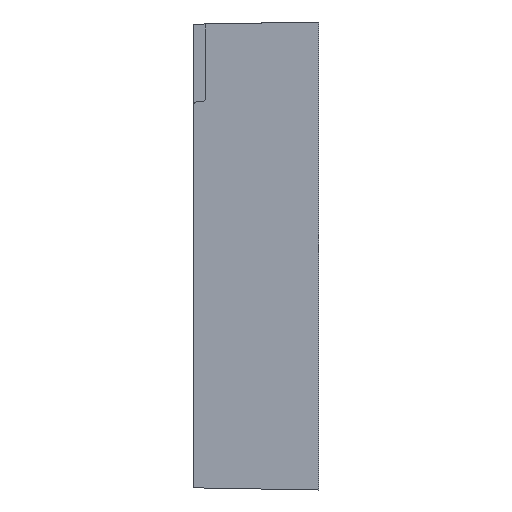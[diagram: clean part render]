
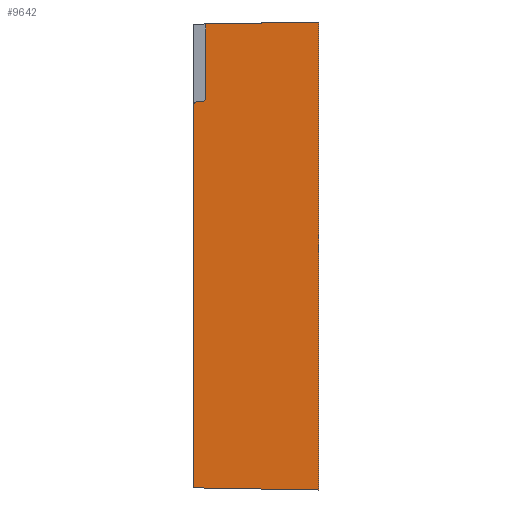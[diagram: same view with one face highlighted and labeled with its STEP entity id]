
A CAD part, left-side view. The second image highlights one B-rep face of the part: STEP entity #9642.
In plain terms, the highlighted planar face has unit normal (-1, 0.018, 0).
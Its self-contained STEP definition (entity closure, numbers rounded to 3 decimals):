
#12 = ORIENTED_EDGE ( 'NONE', *, *, #5117, .T. ) ;
#201 = VERTEX_POINT ( 'NONE', #3354 ) ;
#678 = CARTESIAN_POINT ( 'NONE',  ( -25.746, 14.526, -9.554 ) ) ;
#858 = ORIENTED_EDGE ( 'NONE', *, *, #11812, .F. ) ;
#935 = VERTEX_POINT ( 'NONE', #7057 ) ;
#998 = VECTOR ( 'NONE', #8632, 1000. ) ;
#1232 = CARTESIAN_POINT ( 'NONE',  ( -25.764, 13.5, -9.306 ) ) ;
#1272 = CARTESIAN_POINT ( 'NONE',  ( -26.008, -0.459, -8.768 ) ) ;
#1356 = CARTESIAN_POINT ( 'NONE',  ( -25.761, 13.693, -9.51 ) ) ;
#1741 = EDGE_CURVE ( 'NONE', #11047, #9697, #4998, .T. ) ;
#1780 =( BOUNDED_CURVE ( )  B_SPLINE_CURVE ( 3, ( #678, #9820, #3494, #6945 ),
 .UNSPECIFIED., .F., .T. ) 
 B_SPLINE_CURVE_WITH_KNOTS ( ( 4, 4 ),
 ( 4.765, 6.283 ),
 .UNSPECIFIED. ) 
 CURVE ( )  GEOMETRIC_REPRESENTATION_ITEM ( )  RATIONAL_B_SPLINE_CURVE ( ( 1., 0.817, 0.817, 1. ) ) 
 REPRESENTATION_ITEM ( '' )  );
#2690 = EDGE_CURVE ( 'NONE', #3201, #201, #6659, .T. ) ;
#2945 = LINE ( 'NONE', #10289, #9732 ) ;
#3017 = EDGE_LOOP ( 'NONE', ( #11738, #12, #10572, #10345, #10392, #7182, #858, #5774 ) ) ;
#3201 = VERTEX_POINT ( 'NONE', #7479 ) ;
#3354 = CARTESIAN_POINT ( 'NONE',  ( -25.756, 13.974, -9.525 ) ) ;
#3404 = VECTOR ( 'NONE', #5836, 1000. ) ;
#3494 = CARTESIAN_POINT ( 'NONE',  ( -25.738, 15., -9.772 ) ) ;
#3928 = CARTESIAN_POINT ( 'NONE',  ( -25.738, 15., -10.053 ) ) ;
#4012 = CARTESIAN_POINT ( 'NONE',  ( -26., 0., 0. ) ) ;
#4034 = PLANE ( 'NONE',  #8550 ) ;
#4576 = VECTOR ( 'NONE', #9333, 1000. ) ;
#4711 = DIRECTION ( 'NONE',  ( 0., 0., 1. ) ) ;
#4998 = LINE ( 'NONE', #11319, #998 ) ;
#5104 = DIRECTION ( 'NONE',  ( -0.017, -1., 0. ) ) ;
#5117 = EDGE_CURVE ( 'NONE', #935, #7047, #1780, .T. ) ;
#5287 = EDGE_CURVE ( 'NONE', #7047, #11047, #6661, .T. ) ;
#5774 = ORIENTED_EDGE ( 'NONE', *, *, #2690, .T. ) ;
#5836 = DIRECTION ( 'NONE',  ( 0., 0., -1. ) ) ;
#5875 = FACE_OUTER_BOUND ( 'NONE', #3017, .T. ) ;
#6599 = EDGE_CURVE ( 'NONE', #11716, #7355, #6955, .T. ) ;
#6659 =( BOUNDED_CURVE ( )  B_SPLINE_CURVE ( 3, ( #10496, #1232, #1356, #9473 ),
 .UNSPECIFIED., .F., .T. ) 
 B_SPLINE_CURVE_WITH_KNOTS ( ( 4, 4 ),
 ( 0., 1.518 ),
 .UNSPECIFIED. ) 
 CURVE ( )  GEOMETRIC_REPRESENTATION_ITEM ( )  RATIONAL_B_SPLINE_CURVE ( ( 1., 0.817, 0.817, 1. ) ) 
 REPRESENTATION_ITEM ( '' )  );
#6661 = LINE ( 'NONE', #6720, #3404 ) ;
#6695 = DIRECTION ( 'NONE',  ( -1., 0.017, 0. ) ) ;
#6718 = CARTESIAN_POINT ( 'NONE',  ( -25.992, 0.454, -0.008 ) ) ;
#6720 = CARTESIAN_POINT ( 'NONE',  ( -25.738, 15., 0. ) ) ;
#6945 = CARTESIAN_POINT ( 'NONE',  ( -25.738, 15., -10.053 ) ) ;
#6955 = LINE ( 'NONE', #6718, #9477 ) ;
#7047 = VERTEX_POINT ( 'NONE', #3928 ) ;
#7057 = CARTESIAN_POINT ( 'NONE',  ( -25.746, 14.526, -9.554 ) ) ;
#7096 = CARTESIAN_POINT ( 'NONE',  ( -25.764, 13.5, -0.236 ) ) ;
#7182 = ORIENTED_EDGE ( 'NONE', *, *, #6599, .F. ) ;
#7355 = VERTEX_POINT ( 'NONE', #4012 ) ;
#7479 = CARTESIAN_POINT ( 'NONE',  ( -25.764, 13.5, -9.026 ) ) ;
#7599 = CARTESIAN_POINT ( 'NONE',  ( -26., 0., 0. ) ) ;
#8550 = AXIS2_PLACEMENT_3D ( 'NONE', #7599, #6695, #5104 ) ;
#8632 = DIRECTION ( 'NONE',  ( -0.017, -1., -0.017 ) ) ;
#9306 = CARTESIAN_POINT ( 'NONE',  ( -25.764, 13.5, 0. ) ) ;
#9333 = DIRECTION ( 'NONE',  ( 0.017, 0.998, -0.052 ) ) ;
#9343 = VECTOR ( 'NONE', #4711, 1000. ) ;
#9452 = LINE ( 'NONE', #1272, #4576 ) ;
#9473 = CARTESIAN_POINT ( 'NONE',  ( -25.756, 13.974, -9.525 ) ) ;
#9477 = VECTOR ( 'NONE', #10372, 1000. ) ;
#9517 = CARTESIAN_POINT ( 'NONE',  ( -25.738, 15., -55.738 ) ) ;
#9642 = ADVANCED_FACE ( 'NONE', ( #5875 ), #4034, .T. ) ;
#9697 = VERTEX_POINT ( 'NONE', #11430 ) ;
#9732 = VECTOR ( 'NONE', #10173, 1000. ) ;
#9820 = CARTESIAN_POINT ( 'NONE',  ( -25.742, 14.807, -9.568 ) ) ;
#10173 = DIRECTION ( 'NONE',  ( 0., 0., -1. ) ) ;
#10289 = CARTESIAN_POINT ( 'NONE',  ( -26., 0., 0. ) ) ;
#10345 = ORIENTED_EDGE ( 'NONE', *, *, #1741, .T. ) ;
#10372 = DIRECTION ( 'NONE',  ( -0.017, -1., 0.017 ) ) ;
#10392 = ORIENTED_EDGE ( 'NONE', *, *, #11071, .F. ) ;
#10496 = CARTESIAN_POINT ( 'NONE',  ( -25.764, 13.5, -9.026 ) ) ;
#10572 = ORIENTED_EDGE ( 'NONE', *, *, #5287, .T. ) ;
#11040 = LINE ( 'NONE', #9306, #9343 ) ;
#11047 = VERTEX_POINT ( 'NONE', #9517 ) ;
#11071 = EDGE_CURVE ( 'NONE', #7355, #9697, #2945, .T. ) ;
#11089 = EDGE_CURVE ( 'NONE', #201, #935, #9452, .T. ) ;
#11319 = CARTESIAN_POINT ( 'NONE',  ( -25.983, 0.977, -55.983 ) ) ;
#11430 = CARTESIAN_POINT ( 'NONE',  ( -26., 0., -56. ) ) ;
#11716 = VERTEX_POINT ( 'NONE', #7096 ) ;
#11738 = ORIENTED_EDGE ( 'NONE', *, *, #11089, .T. ) ;
#11812 = EDGE_CURVE ( 'NONE', #3201, #11716, #11040, .T. ) ;
